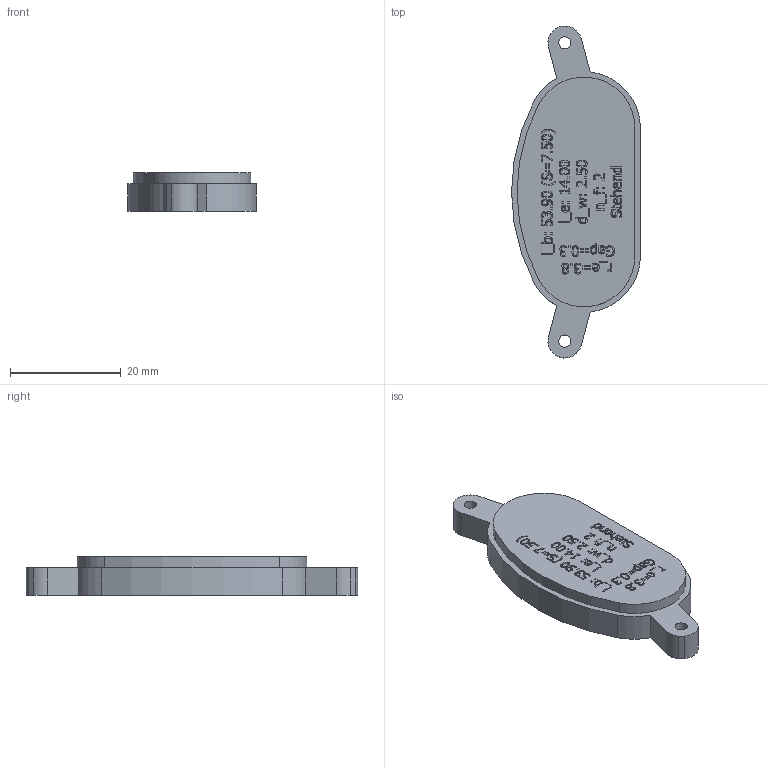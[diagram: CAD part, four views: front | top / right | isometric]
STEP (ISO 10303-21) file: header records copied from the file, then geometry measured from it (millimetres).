
FILE_DESCRIPTION(/* description */ (''),/* implementation_level */ '2;1');
FILE_NAME(/* name */ 'cast_bellow_lower_platform.stp',/* time_stamp */ '2025-08-17T18:20:02+02:00',/* author */ ('MehdiBelhadj'),/* organization */ (''),/* preprocessor_version */ 'ST-DEVELOPER v20.1',/* originating_system */ 'Autodesk Inventor 2026',/* authorisation */ '');
FILE_SCHEMA (('AUTOMOTIVE_DESIGN { 1 0 10303 214 3 1 1 }'));
Length unit declared in the file: millimetre
Products named in the file (1): Balg_Oben_Unten
Bounding box: 23.23 x 59.82 x 7 mm (x, y, z)
Volume: 3279.9 mm3; surface area: 3750.7 mm2
Topology: 1 solids, 1 shells, 890 faces, 2391 edges, 1594 vertices
Faces by surface type: plane 445, bspline 421, cylinder 24
Full cylindrical faces by diameter (mm): 2.2 x2, 4.1 x2
Entity records: 29860 total; most frequent: CARTESIAN_POINT 10349, ORIENTED_EDGE 4782, DIRECTION 2537, EDGE_CURVE 2391, VERTEX_POINT 1594, LINE 1501, VECTOR 1501, EDGE_LOOP 985
